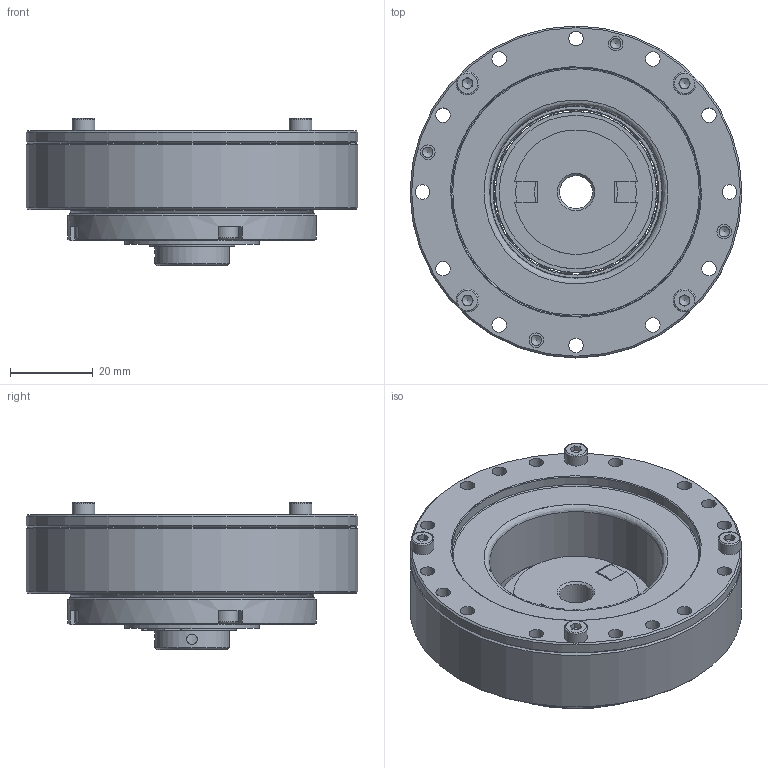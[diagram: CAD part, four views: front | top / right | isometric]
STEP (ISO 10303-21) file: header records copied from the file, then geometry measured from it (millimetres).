
FILE_DESCRIPTION (( 'STEP AP203' ), '1' );
FILE_NAME ('LHS-17-XXX-C-II.STEP', '2025-01-07T05:58:24', ( '' ), ( '' ), 'SwSTEP 2.0', 'SolidWorks 2023', '' );
FILE_SCHEMA (( 'CONFIG_CONTROL_DESIGN' ));
Length unit declared in the file: metre
Products named in the file (1): LHS-17-XXX-C-II
Bounding box: 80 x 80 x 35.5 mm (x, y, z)
Volume: 76502.7 mm3; surface area: 67294.6 mm2
Topology: 44 solids, 44 shells, 613 faces, 1525 edges, 982 vertices
Faces by surface type: plane 260, cylinder 219, cone 75, bspline 59
Full cylindrical faces by diameter (mm): 1.6 x8, 1.7 x2, 2.5 x30, 3 x8, 3.5 x36, 3.7 x16, 5.5 x8, 8 x1, 17 x1, 18 x2, 18.5 x3, 20 x2, 27.5 x2, 29 x2, 30.295 x1, 30.298 x1, 32.5 x1, 32.53 x2, 33.23 x1, 37 x1, 38.79 x1, 39.6 x2, 41.72 x1, 41.722 x1, 42 x1, 42.466 x1, 43.67 x1, 45.5 x1, 47 x2, 49.5 x1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
Entity records: 19493 total; most frequent: CARTESIAN_POINT 6379, DIRECTION 2790, ORIENTED_EDGE 2244, AXIS2_PLACEMENT_3D 1193, EDGE_CURVE 1122, EDGE_LOOP 1036, VERTEX_POINT 868, FACE_OUTER_BOUND 785
